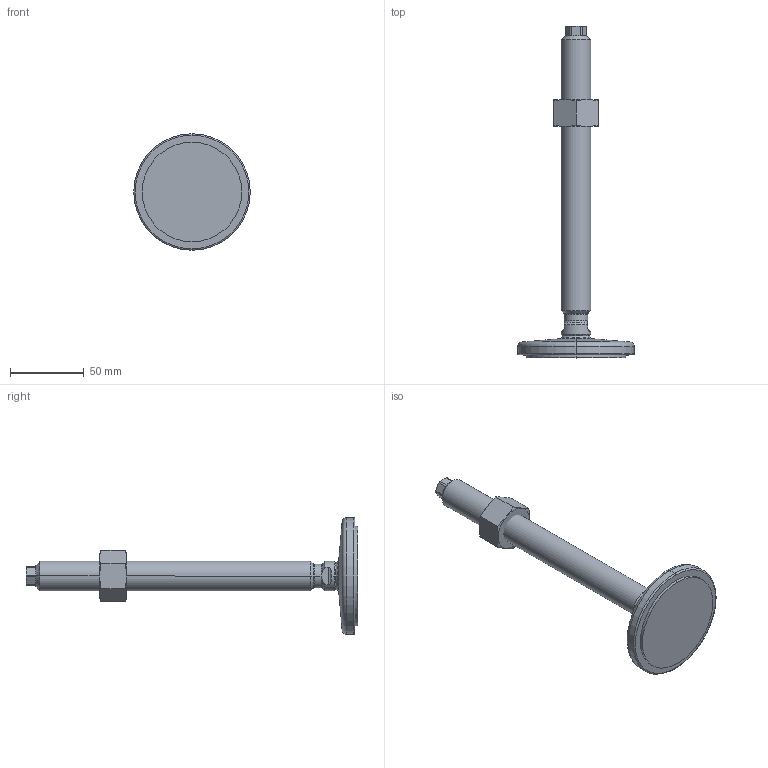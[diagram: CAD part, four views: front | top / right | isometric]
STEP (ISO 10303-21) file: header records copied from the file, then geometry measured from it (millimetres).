
FILE_DESCRIPTION (( 'STEP AP214' ), '1' );
FILE_NAME ('21-80-M20-200-D1-VK.step', '2020-10-02T17:36:34', ( '' ), ( '' ), 'SwSTEP 2.0', 'SolidWorks 2019', '' );
FILE_SCHEMA (( 'AUTOMOTIVE_DESIGN' ));
Length unit declared in the file: millimetre
Products named in the file (4): WB21_Fußteller 21^WB21_V_D1-080-R12-B9 (M20); WB4032^WB21_V_M20; 21-80-M20-200-D1-VK; WB21_Spindel_V^WB21_V_M20-200
Assembly tree (3 placements, depth 2):
  21-80-M20-200-D1-VK
    WB21_Fußteller 21^WB21_V_D1-080-R12-B9 (M20)
    WB21_Spindel_V^WB21_V_M20-200
    WB4032^WB21_V_M20
Bounding box: 79 x 225.02 x 79 mm (x, y, z)
Volume: 127767.2 mm3; surface area: 29827.1 mm2
Topology: 3 solids, 3 shells, 98 faces, 219 edges, 129 vertices
Faces by surface type: cone 29, plane 28, cylinder 27, torus 10, sphere 4
Entity records: 3117 total; most frequent: CARTESIAN_POINT 724, DIRECTION 476, ORIENTED_EDGE 438, EDGE_CURVE 219, AXIS2_PLACEMENT_3D 205, VERTEX_POINT 129, EDGE_LOOP 102, CIRCLE 101
